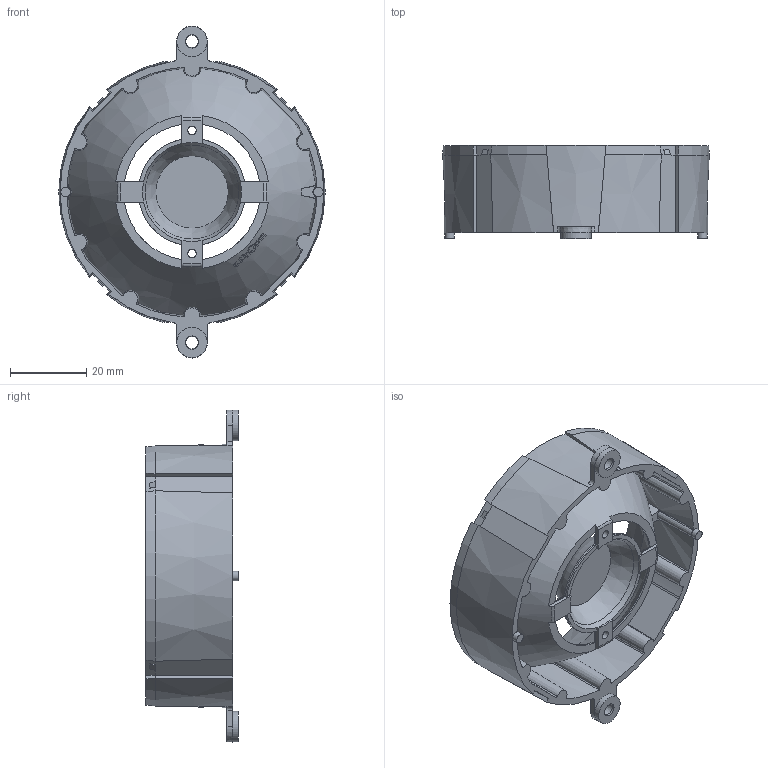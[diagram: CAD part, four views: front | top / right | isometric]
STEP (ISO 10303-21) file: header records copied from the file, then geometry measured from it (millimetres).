
FILE_DESCRIPTION(('STEP AP203'),'1');
FILE_NAME('Z:/MOULES/2901 REFLECTEURS LL/Fichiers piece/3D Modifiés pour Clients/REFLECTEUR Ø70 AF Mod.step','2010-11-23T13:29:06',(' '),(' '),'Spatial InterOp 3D',' ',' ');
FILE_SCHEMA(('CONFIG_CONTROL_DESIGN'));
Length unit declared in the file: millimetre
Products named in the file (1): 1
Bounding box: 69.91 x 24.32 x 87.1 mm (x, y, z)
Volume: 19020.5 mm3; surface area: 20702.2 mm2
Topology: 1 solids, 1 shells, 342 faces, 924 edges, 598 vertices
Faces by surface type: plane 132, cylinder 80, cone 58, bspline 53, extrusion 11, revolution 4, torus 4
Full cylindrical faces by diameter (mm): 2.2 x2, 2.488 x2, 3.449 x2, 7.96 x2
Entity records: 15411 total; most frequent: CARTESIAN_POINT 7844, ORIENTED_EDGE 1794, DIRECTION 1179, EDGE_CURVE 897, VERTEX_POINT 588, B_SPLINE_CURVE_WITH_KNOTS 470, AXIS2_PLACEMENT_3D 447, EDGE_LOOP 389
